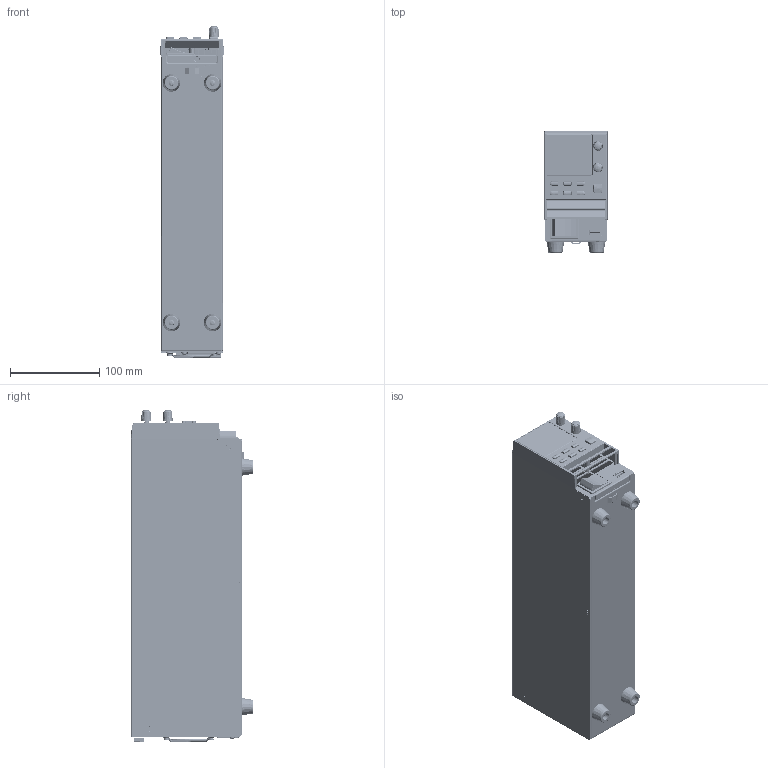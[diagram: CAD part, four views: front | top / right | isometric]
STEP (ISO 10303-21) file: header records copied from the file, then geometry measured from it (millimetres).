
FILE_DESCRIPTION((''),'2;1');
FILE_NAME('2260B-250-4','2018-02-12T',('jpeters'),('Keithley Instruments'),'CREO PARAMETRIC BY PTC INC, 2016050','CREO PARAMETRIC BY PTC INC, 2016050','');
FILE_SCHEMA(('CONFIG_CONTROL_DESIGN'));
Products named in the file (1): 2260B-250-4
Bounding box: 70.8 x 136.4 x 371.25 mm (x, y, z)
Volume: 312857.4 mm3; surface area: 461250.1 mm2
Topology: 40 solids, 75 shells, 9167 faces, 23621 edges, 15180 vertices
Faces by surface type: plane 6487, cylinder 1634, cone 522, bspline 337, torus 103, sphere 68, revolution 16
Entity records: 299531 total; most frequent: CARTESIAN_POINT 75902, ORIENTED_EDGE 46913, DIRECTION 44584, EDGE_CURVE 23527, VECTOR 17488, LINE 17488, VERTEX_POINT 15180, AXIS2_PLACEMENT_3D 13540
